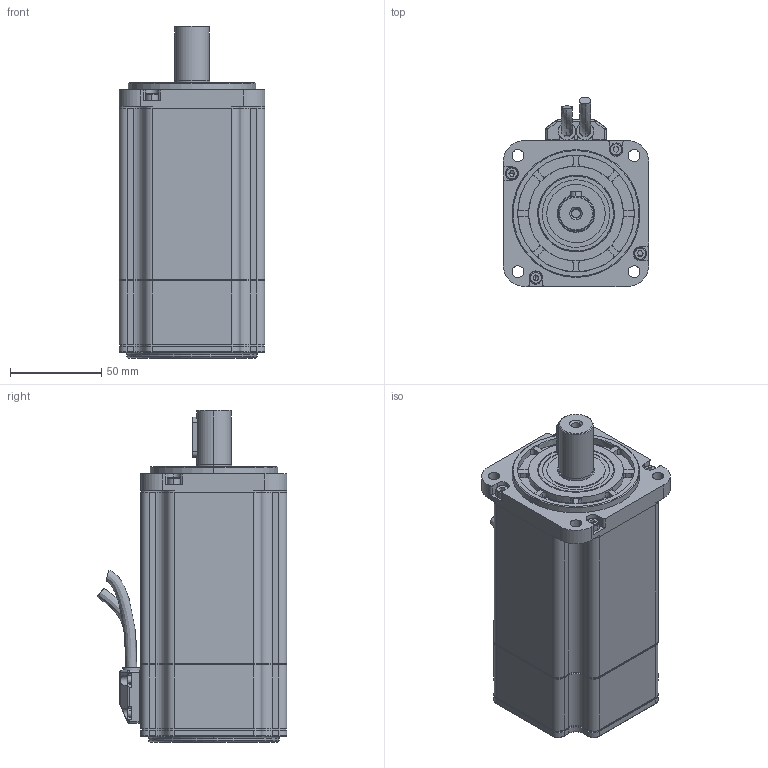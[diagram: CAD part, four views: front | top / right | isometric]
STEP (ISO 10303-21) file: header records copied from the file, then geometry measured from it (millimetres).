
FILE_DESCRIPTION (( 'STEP AP203' ), '1' );
FILE_NAME ('SMH80S-0075-30AAK-3LKH.STEP', '2011-08-31T06:55:27', ( '微软用户' ), ( '微软中国' ), 'SwSTEP 2.0', 'SolidWorks 2008', '' );
FILE_SCHEMA (( 'CONFIG_CONTROL_DESIGN' ));
Length unit declared in the file: millimetre
Products named in the file (1): SMH80S-0075-30AAK-3LKH
Bounding box: 80 x 104.01 x 182 mm (x, y, z)
Surface area: 72064.7 mm2 (no closed solid volume)
Topology: 0 solids, 28 shells, 610 faces, 1834 edges, 1229 vertices
Faces by surface type: plane 272, cylinder 248, torus 40, cone 38, sphere 8, bspline 4
Entity records: 21032 total; most frequent: CARTESIAN_POINT 4140, DIRECTION 3768, ORIENTED_EDGE 3190, EDGE_CURVE 1816, AXIS2_PLACEMENT_3D 1377, VERTEX_POINT 1229, VECTOR 1014, LINE 1014
